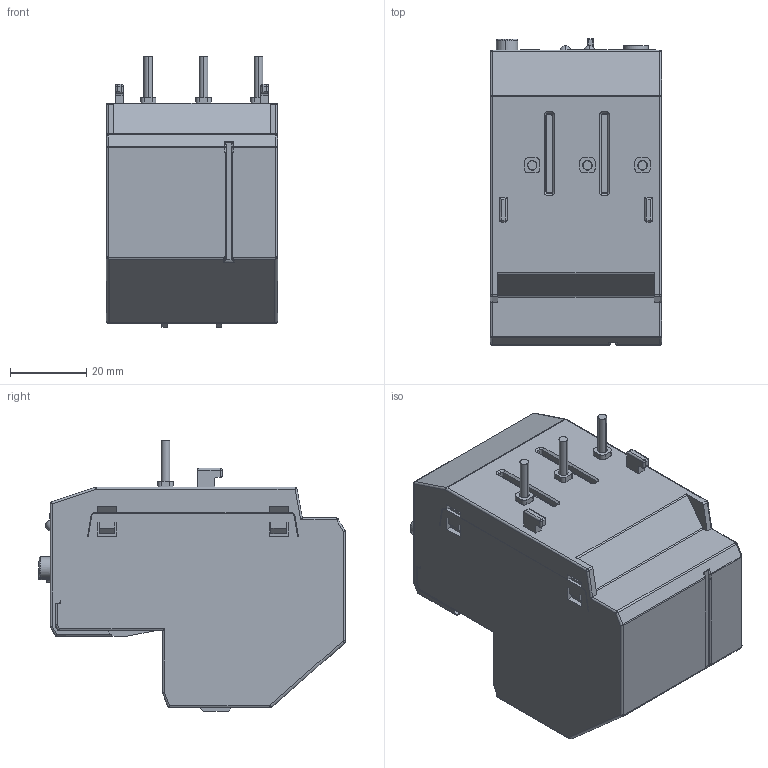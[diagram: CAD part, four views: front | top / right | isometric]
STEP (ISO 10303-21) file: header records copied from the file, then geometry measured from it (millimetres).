
FILE_DESCRIPTION((''),'2;1');
FILE_NAME('NRE8-38-2','2022-02-26T15:46:52',('wangbm'),(''),'CREO PARAMETRIC BY PTC INC, 2020044','CREO PARAMETRIC BY PTC INC, 2020044','');
FILE_SCHEMA(('CONFIG_CONTROL_DESIGN','SHAPE_APPEARANCE_LAYERS_GROUPS'));
Products named in the file (1): NRE8-38-2
Bounding box: 45 x 80.5 x 71.1 mm (x, y, z)
Volume: 52223.8 mm3; surface area: 72772.5 mm2
Topology: 2 solids, 2 shells, 4147 faces, 11541 edges, 7435 vertices
Faces by surface type: plane 2998, cylinder 639, cone 245, extrusion 133, torus 60, bspline 46, sphere 26
Entity records: 173568 total; most frequent: CARTESIAN_POINT 39062, ORIENTED_EDGE 23074, DIRECTION 20376, EDGE_CURVE 11537, VECTOR 9488, LINE 9355, VERTEX_POINT 7435, AXIS2_PLACEMENT_3D 5444
